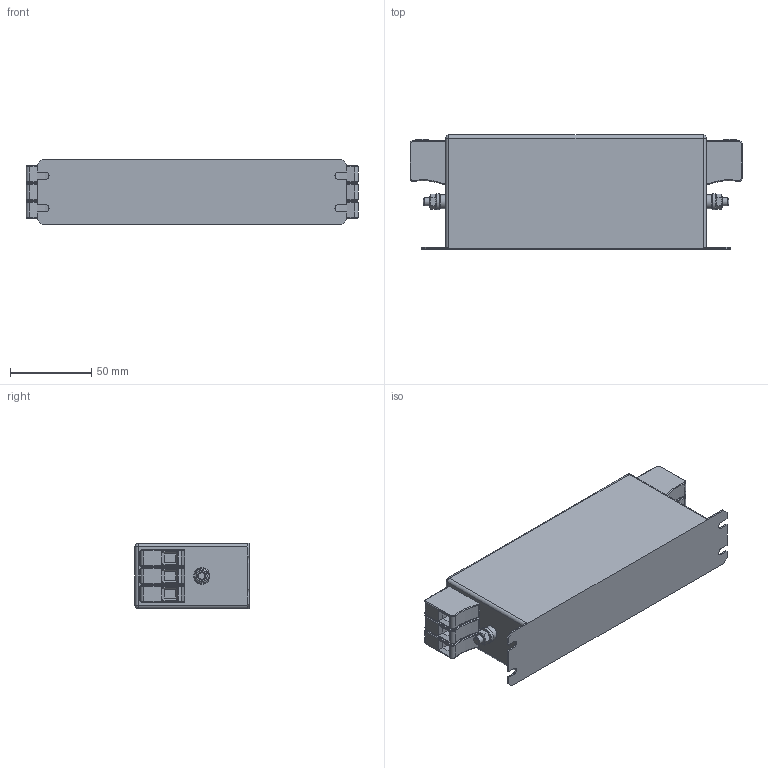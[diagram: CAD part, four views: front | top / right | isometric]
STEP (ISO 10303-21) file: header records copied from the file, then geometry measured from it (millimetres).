
FILE_DESCRIPTION((''),'2;1');
FILE_NAME('L:\INVENTOR_Projektedaten\HousingDesign\FN3258-7-44.stp','2012-11-20T14:19:51',('Samuel.Meier'),(''),'Autodesk Inventor 2010','Autodesk Inventor 2010','');
FILE_SCHEMA(('AUTOMOTIVE_DESIGN { 1 0 10303 214 1 1 1 1 }'));
Length unit declared in the file: millimetre
Products named in the file (1): FN3258-7-44
Bounding box: 203.8 x 70 x 40 mm (x, y, z)
Volume: 481029.1 mm3; surface area: 53568.8 mm2
Topology: 1 solids, 3 shells, 420 faces, 1012 edges, 620 vertices
Faces by surface type: plane 218, cylinder 113, torus 48, sphere 16, bspline 13, cone 12
Full cylindrical faces by diameter (mm): 4.5 x6, 5 x2, 5.3 x2, 8.5 x7, 10 x2
Entity records: 12172 total; most frequent: CARTESIAN_POINT 2146, DIRECTION 2048, ORIENTED_EDGE 1868, EDGE_CURVE 934, AXIS2_PLACEMENT_3D 730, VERTEX_POINT 606, VECTOR 588, LINE 588
